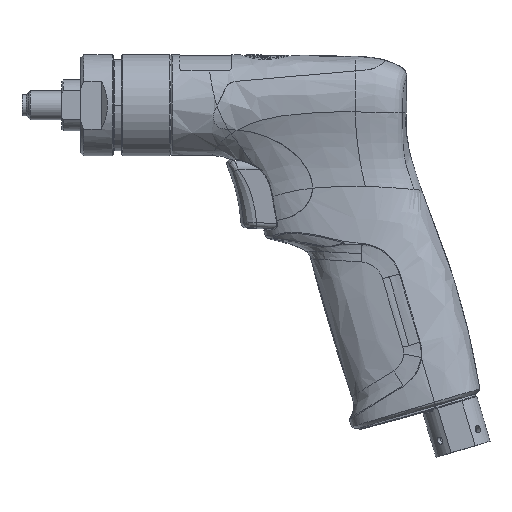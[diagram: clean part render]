
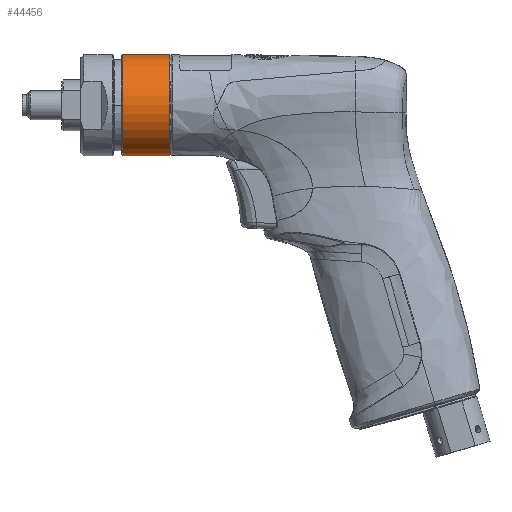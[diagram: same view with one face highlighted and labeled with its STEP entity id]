
A CAD part, top view. The second image highlights one B-rep face of the part: STEP entity #44456.
In plain terms, the highlighted cylindrical face has radius 17 mm (diameter 34 mm), a partial arc.
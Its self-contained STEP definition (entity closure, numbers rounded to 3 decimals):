
#44017=CARTESIAN_POINT('',(-83.7,0.,0.));
#44018=DIRECTION('',(1.,0.,0.));
#44019=DIRECTION('',(0.,1.,0.));
#44020=AXIS2_PLACEMENT_3D('',#44017,#44018,#44019);
#44035=DIRECTION('',(1.,0.,0.));
#44036=VECTOR('',#44035,15.9);
#44037=CARTESIAN_POINT('',(-83.7,17.,0.));
#44038=LINE('',#44037,#44036);
#44039=DIRECTION('',(-1.,0.,0.));
#44040=VECTOR('',#44039,15.9);
#44041=CARTESIAN_POINT('',(-67.8,-17.,0.));
#44042=LINE('',#44041,#44040);
#44043=CARTESIAN_POINT('',(-67.8,0.,0.));
#44044=DIRECTION('',(-1.,0.,0.));
#44045=DIRECTION('',(0.,-1.,0.));
#44046=AXIS2_PLACEMENT_3D('',#44043,#44044,#44045);
#44164=CARTESIAN_POINT('',(-83.7,17.,0.));
#44165=VERTEX_POINT('',#44164);
#44166=CARTESIAN_POINT('',(-83.7,-17.,0.));
#44167=VERTEX_POINT('',#44166);
#44168=CARTESIAN_POINT('',(-67.8,-17.,0.));
#44169=VERTEX_POINT('',#44168);
#44170=CARTESIAN_POINT('',(-67.8,17.,0.));
#44171=VERTEX_POINT('',#44170);
#44444=CARTESIAN_POINT('',(-84.018,0.,0.));
#44445=DIRECTION('',(1.,0.,0.));
#44446=DIRECTION('',(0.,1.,0.));
#44447=AXIS2_PLACEMENT_3D('',#44444,#44445,#44446);
#44448=CYLINDRICAL_SURFACE('',#44447,17.);
#44449=ORIENTED_EDGE('',*,*,#44409,.F.);
#44450=ORIENTED_EDGE('',*,*,#44439,.T.);
#44452=ORIENTED_EDGE('',*,*,#44451,.F.);
#44453=ORIENTED_EDGE('',*,*,#44435,.T.);
#44454=EDGE_LOOP('',(#44449,#44450,#44452,#44453));
#44455=FACE_OUTER_BOUND('',#44454,.F.);
#44456=ADVANCED_FACE('',(#44455),#44448,.T.);
#44021=CIRCLE('',#44020,17.);
#44047=CIRCLE('',#44046,17.);
#44409=EDGE_CURVE('',#44165,#44167,#44021,.T.);
#44435=EDGE_CURVE('',#44169,#44167,#44042,.T.);
#44439=EDGE_CURVE('',#44165,#44171,#44038,.T.);
#44451=EDGE_CURVE('',#44169,#44171,#44047,.T.);
